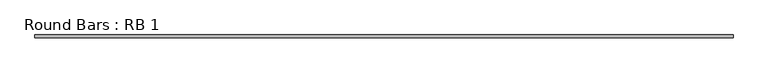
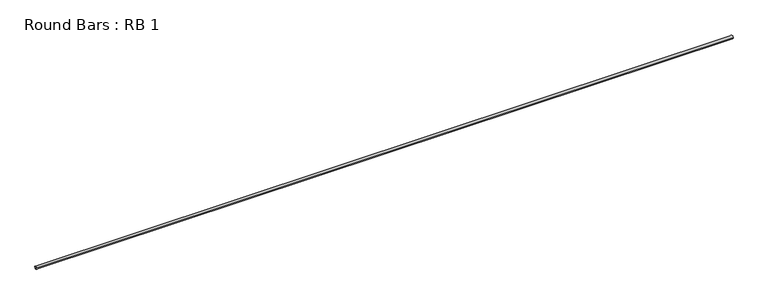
"""IFC4 building model written with IfcOpenShell, lengths in millimetres: beam geometry, Round Bars : RB 1."""

import ifcopenshell
import ifcopenshell.guid

model = None  # the IFC model being written
_history = None  # IfcOwnerHistory: only IFC2X3 demands one
_inside = {}  # id of a spatial element -> (the spatial element, [elements in it])
_under = {}  # id of a project, library or spatial element -> (it, [spatial elements below it])
_declared = {}  # id of a project -> (the project, [libraries it declares])
_typed = {}  # id of a type object -> (the type object, [elements of that type])
_made_of = {}  # id of a material, layer set ... -> (it, [elements and type objects made of it])


def new_model(schema):
    """Start an empty IFC model of exactly this schema.

    Asked for "IFC4X3", IfcOpenShell would pick the latest addendum, in which some entities
    have other attributes; the version numbers below select the first issue.
    IFC2X3 requires an IfcOwnerHistory on every rooted entity: one is made here for all.
    """
    global model, _history
    if schema == "IFC4X3":
        model = ifcopenshell.file(schema_version=(4, 3, 0, 0))
    else:
        model = ifcopenshell.file(schema=schema)
    _inside.clear()
    _under.clear()
    _declared.clear()
    _typed.clear()
    _made_of.clear()
    _history = None
    if model.schema == "IFC2X3":
        org = make("IfcOrganization", Name="unknown")
        user = make(
            "IfcPersonAndOrganization",
            ThePerson=make("IfcPerson", FamilyName="unknown"),
            TheOrganization=org,
        )
        app = make(
            "IfcApplication",
            ApplicationDeveloper=org,
            Version="unknown",
            ApplicationFullName="unknown",
            ApplicationIdentifier="unknown",
        )
        _history = make(
            "IfcOwnerHistory",
            OwningUser=user,
            OwningApplication=app,
            ChangeAction="ADDED",
            CreationDate=0,
        )
    return model


def make(cls, **values):
    """One entity of the class cls with the attributes given. An attribute that is None is left unset."""
    return model.create_entity(
        cls, **{name: value for name, value in values.items() if value is not None}
    )


def rooted(cls, **values):
    """An entity with a GlobalId (a new one), such as an element, a storey or a relation."""
    return make(cls, GlobalId=ifcopenshell.guid.new(), OwnerHistory=_history, **values)


def si_unit(unit_type, name, prefix=None):
    """IfcSIUnit, for example si_unit("LENGTHUNIT", "METRE", prefix="MILLI")."""
    return make("IfcSIUnit", UnitType=unit_type, Prefix=prefix, Name=name)


def assignment(units):
    """IfcUnitAssignment: the units of a project."""
    return None if units is None else make("IfcUnitAssignment", Units=units)


def point(xyz):
    """IfcCartesianPoint."""
    return None if xyz is None else make("IfcCartesianPoint", Coordinates=xyz)


def direction(xyz):
    """IfcDirection."""
    return None if xyz is None else make("IfcDirection", DirectionRatios=xyz)


def frame(location, z_axis=None, x_axis=None):
    """IfcAxis2Placement3D, a coordinate frame: its origin and axes. An axis left out is left unset."""
    return make(
        "IfcAxis2Placement3D",
        Location=point(location),
        Axis=direction(z_axis),
        RefDirection=direction(x_axis),
    )


def frame_2d(location, x_axis=None):
    """IfcAxis2Placement2D, a coordinate frame in the plane: its origin and x axis."""
    return make(
        "IfcAxis2Placement2D", Location=point(location), RefDirection=direction(x_axis)
    )


def origin():
    """The frame at (0, 0, 0) with its axes left unset."""
    return frame((0.0, 0.0, 0.0))


def origin_2d():
    """The frame at (0, 0) in the plane with its x axis left unset."""
    return frame_2d((0.0, 0.0))


def place(relative_to, where):
    """IfcLocalPlacement: puts the frame where relative to a parent placement (None: the world)."""
    return make(
        "IfcLocalPlacement", PlacementRelTo=relative_to, RelativePlacement=where
    )


def context(
    kind, dimensions, precision=None, world=None, true_north=None, identifier=None
):
    """IfcGeometricRepresentationContext, for example the 3D "Model" context."""
    return make(
        "IfcGeometricRepresentationContext",
        ContextIdentifier=identifier,
        ContextType=kind,
        CoordinateSpaceDimension=dimensions,
        Precision=precision,
        WorldCoordinateSystem=world,
        TrueNorth=true_north,
    )


def project(units=None, contexts=None):
    """IfcProject with its units and contexts."""
    return rooted(
        "IfcProject",
        Name="project",
        RepresentationContexts=contexts,
        UnitsInContext=assignment(units),
    )


def spatial(cls, under=None, at=None, **own):
    """A site, building, storey or space (cls), placed at a placement, below another one or the project."""
    s = rooted(cls, ObjectPlacement=at, **own)
    if under is not None:
        _under.setdefault(under.id(), (under, []))[1].append(s)
    return s


def circle_curve(where, radius):
    """IfcCircle in the frame where."""
    return make("IfcCircle", Position=where, Radius=radius)


def trimmed(basis, trim1, trim2, sense, master):
    """IfcTrimmedCurve: the piece of a basis curve between two trims."""
    return make(
        "IfcTrimmedCurve",
        BasisCurve=basis,
        Trim1=trim1,
        Trim2=trim2,
        SenseAgreement=sense,
        MasterRepresentation=master,
    )


def segment(curve, same_sense, transition):
    """IfcCompositeCurveSegment."""
    return make(
        "IfcCompositeCurveSegment",
        Transition=transition,
        SameSense=same_sense,
        ParentCurve=curve,
    )


def composite_curve(segments, self_intersect=None):
    """IfcCompositeCurve: segments joined end to end."""
    return make("IfcCompositeCurve", Segments=segments, SelfIntersect=self_intersect)


def outline(outer, holes=None, kind="AREA"):
    """IfcArbitraryClosedProfileDef: a profile drawn as a closed curve; with holes, ...WithVoids."""
    if holes is None:
        return make("IfcArbitraryClosedProfileDef", ProfileType=kind, OuterCurve=outer)
    return make(
        "IfcArbitraryProfileDefWithVoids",
        ProfileType=kind,
        OuterCurve=outer,
        InnerCurves=holes,
    )


def extrude(swept, where, along, depth):
    """IfcExtrudedAreaSolid: the profile swept, set in the frame where, extruded along a direction by depth."""
    return make(
        "IfcExtrudedAreaSolid",
        SweptArea=swept,
        Position=where,
        ExtrudedDirection=direction(along),
        Depth=depth,
    )


def shape(context_of_items, identifier, shape_type, items):
    """IfcShapeRepresentation: the items that make up one representation, for example the "Body"."""
    return make(
        "IfcShapeRepresentation",
        ContextOfItems=context_of_items,
        RepresentationIdentifier=identifier,
        RepresentationType=shape_type,
        Items=items,
    )


def source(mapping_origin, context_of_items, identifier, shape_type, items):
    """IfcRepresentationMap: a shape defined once, which mapped items show again and again."""
    return make(
        "IfcRepresentationMap",
        MappingOrigin=mapping_origin,
        MappedRepresentation=shape(context_of_items, identifier, shape_type, items),
    )


def transform(
    local_origin,
    x_axis=None,
    y_axis=None,
    z_axis=None,
    scale=None,
    scale2=None,
    scale3=None,
    uniform=True,
):
    """IfcCartesianTransformationOperator3D, or its non-uniform kind. x_axis, y_axis, z_axis: its Axis1, 2, 3."""
    if uniform:
        return make(
            "IfcCartesianTransformationOperator3D",
            Axis1=direction(x_axis),
            Axis2=direction(y_axis),
            LocalOrigin=point(local_origin),
            Scale=scale,
            Axis3=direction(z_axis),
        )
    return make(
        "IfcCartesianTransformationOperator3DnonUniform",
        Axis1=direction(x_axis),
        Axis2=direction(y_axis),
        LocalOrigin=point(local_origin),
        Scale=scale,
        Axis3=direction(z_axis),
        Scale2=scale2,
        Scale3=scale3,
    )


def mapped(mapping_source, mapping_target):
    """IfcMappedItem: shows the shape of a source again, moved by a transform."""
    return make(
        "IfcMappedItem", MappingSource=mapping_source, MappingTarget=mapping_target
    )


def made_of(thing, what):
    """Note that an element or type object is made of a material, layer set ...; save() writes the relation."""
    if what is not None:
        _made_of.setdefault(what.id(), (what, []))[1].append(thing)
    return thing


def element(
    cls,
    number,
    at=None,
    inside=None,
    cuts=None,
    type_object=None,
    material=None,
    context=None,
    identifier="Body",
    shape_type=None,
    held_by="IfcProductDefinitionShape",
    body=None,
    shapes=None,
    **own,
):
    """One element of the class cls, such as IfcWall. Its Tag is "e" and its number.

    at: its placement. inside: the storey or other place that contains it. cuts: it is an
    opening in that element (IfcRelVoidsElement). A single representation is given by context,
    identifier, shape_type and body (its items); several are given by shapes. held_by: the class
    of the entity that holds the representations. save() writes the other relations.
    """
    e = rooted(cls, Tag="e%d" % number, ObjectPlacement=at, **own)
    if body is not None:
        shapes = [shape(context, identifier, shape_type, body)]
    if shapes is not None:
        e.Representation = make(held_by, Representations=shapes)
    if inside is not None:
        _inside.setdefault(inside.id(), (inside, []))[1].append(e)
    if cuts is not None:
        rooted(
            "IfcRelVoidsElement", RelatingBuildingElement=cuts, RelatedOpeningElement=e
        )
    if type_object is not None:
        _typed.setdefault(type_object.id(), (type_object, []))[1].append(e)
    return made_of(e, material)


def aggregate(whole, parts):
    """IfcRelAggregates: a whole, such as a stair, and the parts it consists of."""
    return rooted("IfcRelAggregates", RelatingObject=whole, RelatedObjects=parts)


def save(model, path):
    """Write the relations noted so far, then the file.

    IfcRelAggregates (storeys below a building ...), IfcRelContainedInSpatialStructure (elements
    in a storey), IfcRelDefinesByType, IfcRelAssociatesMaterial and IfcRelDeclares: one each for
    every whole, place, type object, material and project.
    """
    for whole, parts in _under.values():
        aggregate(whole, parts)
    for where, things in _inside.values():
        rooted(
            "IfcRelContainedInSpatialStructure",
            RelatedElements=things,
            RelatingStructure=where,
        )
    for kind, things in _typed.values():
        rooted("IfcRelDefinesByType", RelatedObjects=things, RelatingType=kind)
    for what, things in _made_of.values():
        rooted("IfcRelAssociatesMaterial", RelatedObjects=things, RelatingMaterial=what)
    for by, libraries in _declared.values():
        rooted("IfcRelDeclares", RelatingContext=by, RelatedDefinitions=libraries)
    model.write(path)


def round_bars_rb_1_baf046db(model_context):
    return source(origin(), model_context, "Body", "SweptSolid", [
        extrude(outline(composite_curve([segment(trimmed(circle_curve(origin_2d(), 12.7), [point((-12.7, 0.0))], [point((12.7, 0.0))], False, "CARTESIAN"), True, "CONTINUOUS"), segment(trimmed(circle_curve(origin_2d(), 12.7), [point((12.7, 0.0))], [point((-12.7, 0.0))], False, "CARTESIAN"), True, "CONTINUOUS")], self_intersect=False)), frame((-3217.2484674, 0.0, 0.0), z_axis=(1.0, 0.0, 0.0), x_axis=(0.0, 1.0, 0.0)), (0.0, 0.0, 1.0), 6434.4969349),
    ])


if __name__ == "__main__":
    model = new_model("IFC4")
    model_context = context("Model", 3, world=origin())
    ifc_project = project(units=[si_unit("LENGTHUNIT", "METRE", prefix="MILLI")], contexts=[model_context])
    site = spatial("IfcSite", under=ifc_project)
    building = spatial("IfcBuilding", under=site)
    placement = place(None, origin())
    round_bars_rb_1_shape = round_bars_rb_1_baf046db(model_context)
    element("IfcBeam", 1, ObjectType="Round Bars : RB 1", at=placement, inside=building, context=model_context, shape_type="MappedRepresentation", body=[
        mapped(round_bars_rb_1_shape, transform((0.0, 0.0, 0.0), x_axis=(1.0, 0.0, 0.0), y_axis=(0.0, 1.0, 0.0), z_axis=(0.0, 0.0, 1.0))),
    ])
    save(model, "model.ifc")
